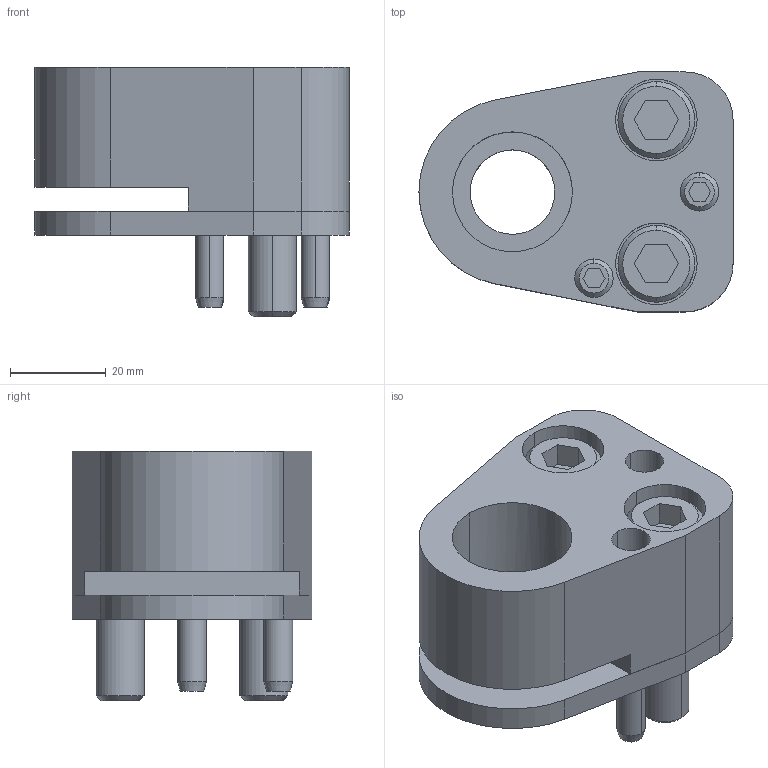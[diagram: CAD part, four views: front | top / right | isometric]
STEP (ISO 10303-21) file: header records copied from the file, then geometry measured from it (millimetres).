
FILE_DESCRIPTION(/* description */ (''),/* implementation_level */ '2;1');
FILE_NAME(/* name */ '3d_cp-fd25_03586_r00.stp',/* time_stamp */ '2011-01-10T14:16:28+09:00',/* author */ ('MISUMI'),/* organization */ (''),/* preprocessor_version */ 'ST-DEVELOPER v11',/* originating_system */ 'UGS - NX 5.0',/* authorisation */ '');
FILE_SCHEMA (('CONFIG_CONTROL_DESIGN'));
Length unit declared in the file: millimetre
Products named in the file (1): 3d_cp-fd25_03586_r00
Bounding box: 65.5 x 50 x 52 mm (x, y, z)
Volume: 75123.7 mm3; surface area: 28261.7 mm2
Topology: 8 solids, 8 shells, 154 faces, 353 edges, 228 vertices
Faces by surface type: plane 68, cylinder 60, cone 26
Entity records: 4523 total; most frequent: DIRECTION 803, CARTESIAN_POINT 793, ORIENTED_EDGE 706, EDGE_CURVE 353, AXIS2_PLACEMENT_3D 302, VERTEX_POINT 228, LINE 199, VECTOR 199
